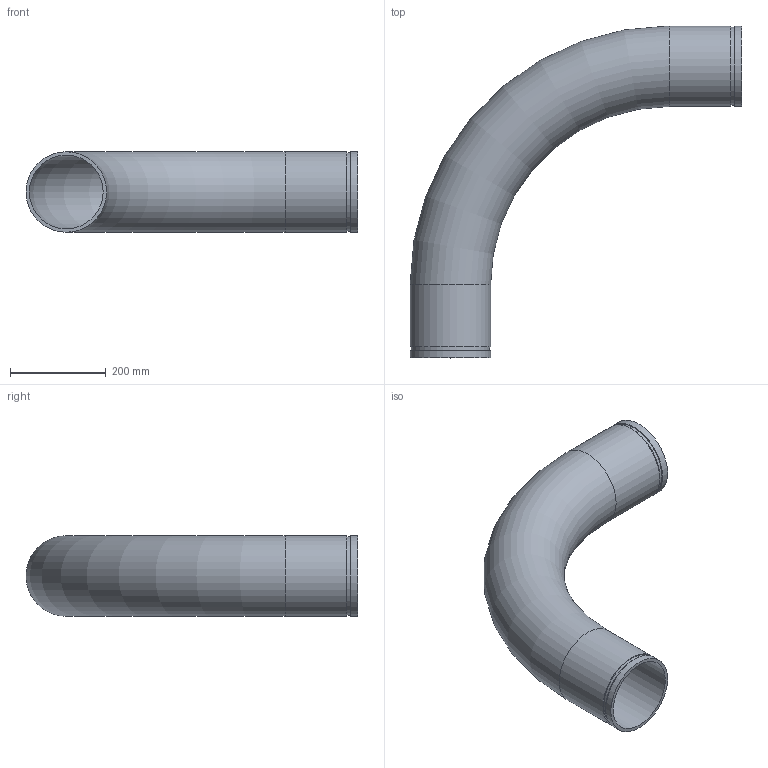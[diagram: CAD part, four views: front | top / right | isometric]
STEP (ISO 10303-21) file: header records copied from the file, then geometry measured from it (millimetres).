
FILE_DESCRIPTION(/* description */ ('VIC ENDSEAL 90 DEG 3D ELBOW No 100-3D','CAx-IF Rec.Pracs.---Representation and Presentation of Product Manufacturing Information (PMI)---4.0---2014-10-13'),/* implementation_level */ '2;1');
FILE_NAME(/* name */ 'C:\Users\kkamble\AppData\Roaming\Autodesk\ApplicationPlugins\Back Up\Victaulic-ES-Long Radius Elbow No 100_3D\Victaulic-ES-Long Radius Elbow No 100_3D_6 (150).stp',/* time_stamp */ '2020-03-13T11:16:55+06:00',/* author */ ('CORINNE GRAY'),/* organization */ ('Victaulic'),/* preprocessor_version */ 'ST-DEVELOPER v17.2',/* originating_system */ 'Autodesk Inventor 2019',/* authorisation */ '');
FILE_SCHEMA (('AP242_MANAGED_MODEL_BASED_3D_ENGINEERING_MIM_LF { 1 0 10303 442 1 1 4 }'));
Length unit declared in the file: inch
Products named in the file (1): No.100-3D-06.0
Bounding box: 693.74 x 693.74 x 168.28 mm (x, y, z)
Volume: 3666113.7 mm3; surface area: 1047373.3 mm2
Topology: 1 solids, 1 shells, 16 faces, 34 edges, 24 vertices
Faces by surface type: cylinder 8, plane 6, torus 2
Full cylindrical faces by diameter (mm): 154.051 x2, 163.957 x2, 168.275 x4
Entity records: 608 total; most frequent: DIRECTION 120, CARTESIAN_POINT 92, ORIENTED_EDGE 68, AXIS2_PLACEMENT_3D 56, EDGE_CURVE 34, CIRCLE 26, VERTEX_POINT 24, EDGE_LOOP 22
